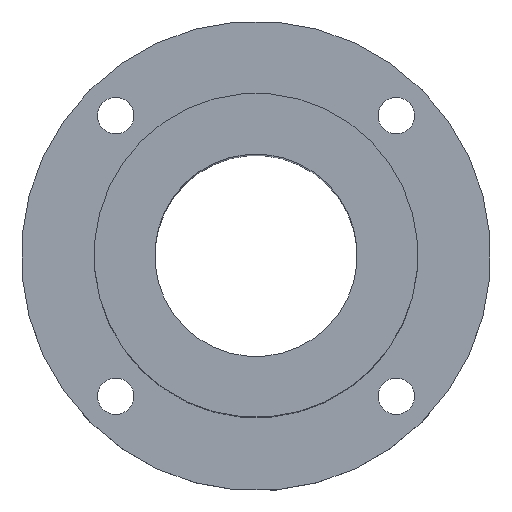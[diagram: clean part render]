
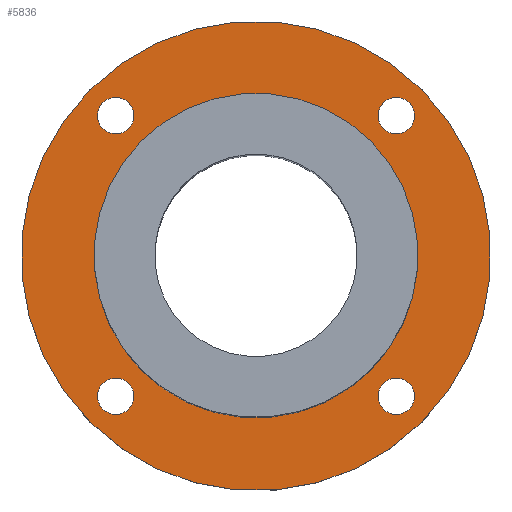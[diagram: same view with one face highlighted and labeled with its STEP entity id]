
A CAD part, top view. The second image highlights one B-rep face of the part: STEP entity #5836.
In plain terms, the highlighted planar face has unit normal (0, 0, 1).
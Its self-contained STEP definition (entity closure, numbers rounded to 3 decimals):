
#110=CIRCLE('',#6203,40.);
#114=CIRCLE('',#6211,58.);
#115=CIRCLE('',#6213,4.5);
#116=CIRCLE('',#6214,4.5);
#117=CIRCLE('',#6215,4.5);
#118=CIRCLE('',#6216,4.5);
#522=ORIENTED_EDGE('',*,*,#2196,.F.);
#523=ORIENTED_EDGE('',*,*,#2197,.F.);
#524=ORIENTED_EDGE('',*,*,#2198,.F.);
#525=ORIENTED_EDGE('',*,*,#2199,.F.);
#526=ORIENTED_EDGE('',*,*,#2191,.T.);
#527=ORIENTED_EDGE('',*,*,#2195,.T.);
#2191=EDGE_CURVE('',#3031,#3031,#110,.F.);
#2195=EDGE_CURVE('',#3035,#3035,#114,.T.);
#2196=EDGE_CURVE('',#3036,#3036,#115,.T.);
#2197=EDGE_CURVE('',#3037,#3037,#116,.T.);
#2198=EDGE_CURVE('',#3038,#3038,#117,.T.);
#2199=EDGE_CURVE('',#3039,#3039,#118,.T.);
#3031=VERTEX_POINT('',#9205);
#3035=VERTEX_POINT('',#9217);
#3036=VERTEX_POINT('',#9220);
#3037=VERTEX_POINT('',#9222);
#3038=VERTEX_POINT('',#9224);
#3039=VERTEX_POINT('',#9226);
#4782=EDGE_LOOP('',(#522));
#4783=EDGE_LOOP('',(#523));
#4784=EDGE_LOOP('',(#524));
#4785=EDGE_LOOP('',(#525));
#4786=EDGE_LOOP('',(#526));
#4787=EDGE_LOOP('',(#527));
#5202=FACE_BOUND('',#4782,.T.);
#5203=FACE_BOUND('',#4783,.T.);
#5204=FACE_BOUND('',#4784,.T.);
#5205=FACE_BOUND('',#4785,.T.);
#5206=FACE_BOUND('',#4786,.T.);
#5207=FACE_BOUND('',#4787,.T.);
#5564=PLANE('',#6212);
#5836=ADVANCED_FACE('',(#5202,#5203,#5204,#5205,#5206,#5207),#5564,.T.);
#6203=AXIS2_PLACEMENT_3D('',#9204,#6746,#6747);
#6211=AXIS2_PLACEMENT_3D('',#9216,#6762,#6763);
#6212=AXIS2_PLACEMENT_3D('',#9218,#6764,#6765);
#6213=AXIS2_PLACEMENT_3D('',#9219,#6766,#6767);
#6214=AXIS2_PLACEMENT_3D('',#9221,#6768,#6769);
#6215=AXIS2_PLACEMENT_3D('',#9223,#6770,#6771);
#6216=AXIS2_PLACEMENT_3D('',#9225,#6772,#6773);
#6746=DIRECTION('',(0.,0.,1.));
#6747=DIRECTION('',(0.707,-0.707,0.));
#6762=DIRECTION('',(0.,0.,1.));
#6763=DIRECTION('',(0.707,-0.707,0.));
#6764=DIRECTION('',(0.,0.,1.));
#6765=DIRECTION('',(0.707,-0.707,0.));
#6766=DIRECTION('',(0.,0.,1.));
#6767=DIRECTION('',(0.707,-0.707,0.));
#6768=DIRECTION('',(0.,0.,1.));
#6769=DIRECTION('',(0.707,-0.707,0.));
#6770=DIRECTION('',(0.,0.,1.));
#6771=DIRECTION('',(0.707,-0.707,0.));
#6772=DIRECTION('',(0.,0.,1.));
#6773=DIRECTION('',(0.707,-0.707,0.));
#9204=CARTESIAN_POINT('',(0.,0.,0.));
#9205=CARTESIAN_POINT('',(28.284,-28.284,0.));
#9216=CARTESIAN_POINT('',(0.,0.,0.));
#9217=CARTESIAN_POINT('',(41.012,-41.012,0.));
#9218=CARTESIAN_POINT('',(0.,0.,0.));
#9219=CARTESIAN_POINT('',(34.648,34.648,0.));
#9220=CARTESIAN_POINT('',(37.83,31.466,0.));
#9221=CARTESIAN_POINT('',(-34.648,34.648,0.));
#9222=CARTESIAN_POINT('',(-31.466,31.466,0.));
#9223=CARTESIAN_POINT('',(-34.648,-34.648,0.));
#9224=CARTESIAN_POINT('',(-31.466,-37.83,0.));
#9225=CARTESIAN_POINT('',(34.648,-34.648,0.));
#9226=CARTESIAN_POINT('',(37.83,-37.83,0.));
